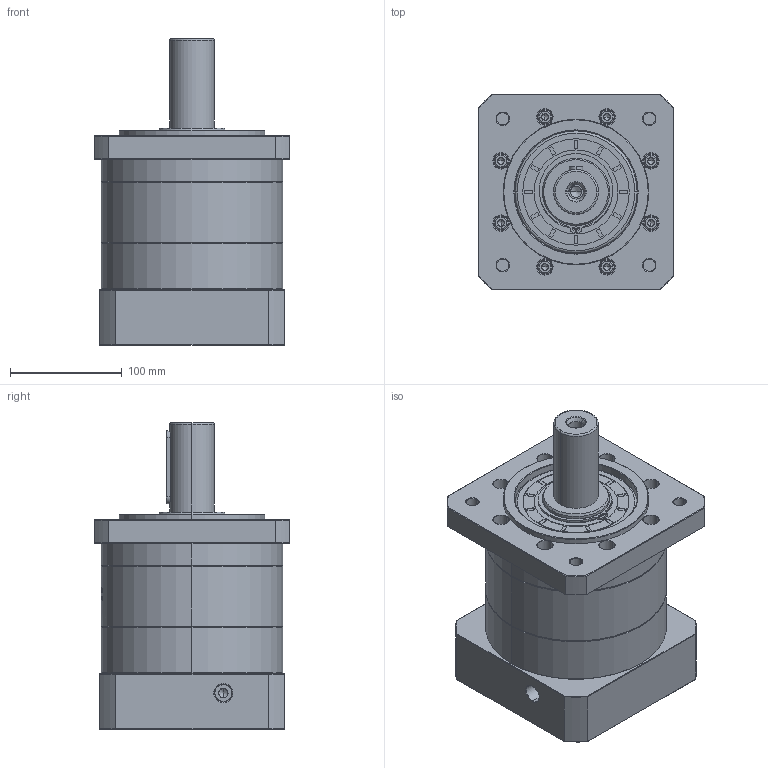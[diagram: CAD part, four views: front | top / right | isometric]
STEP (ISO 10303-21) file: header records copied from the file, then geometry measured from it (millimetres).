
FILE_DESCRIPTION (( 'STEP AP214' ), '1' );
FILE_NAME ('ZF160-D40-L1-28-130-174-M10.step', '2023-03-21T04:28:15', ( '' ), ( '' ), 'SwSTEP 2.0', 'SolidWorks 2016', '' );
FILE_SCHEMA (( 'AUTOMOTIVE_DESIGN' ));
Length unit declared in the file: millimetre
Products named in the file (1): ZF160-D40-L1-28-130-174-M10
Bounding box: 175 x 175 x 274.2 mm (x, y, z)
Volume: 4075862.1 mm3; surface area: 328267.4 mm2
Topology: 6 solids, 6 shells, 1636 faces, 4256 edges, 2724 vertices
Faces by surface type: plane 644, cylinder 426, cone 326, bspline 218, torus 22
Entity records: 93067 total; most frequent: CARTESIAN_POINT 37251, ORIENTED_EDGE 8452, DIRECTION 7149, EDGE_CURVE 4226, VERTEX_POINT 2724, AXIS2_PLACEMENT_3D 2478, VECTOR 2193, LINE 2193
